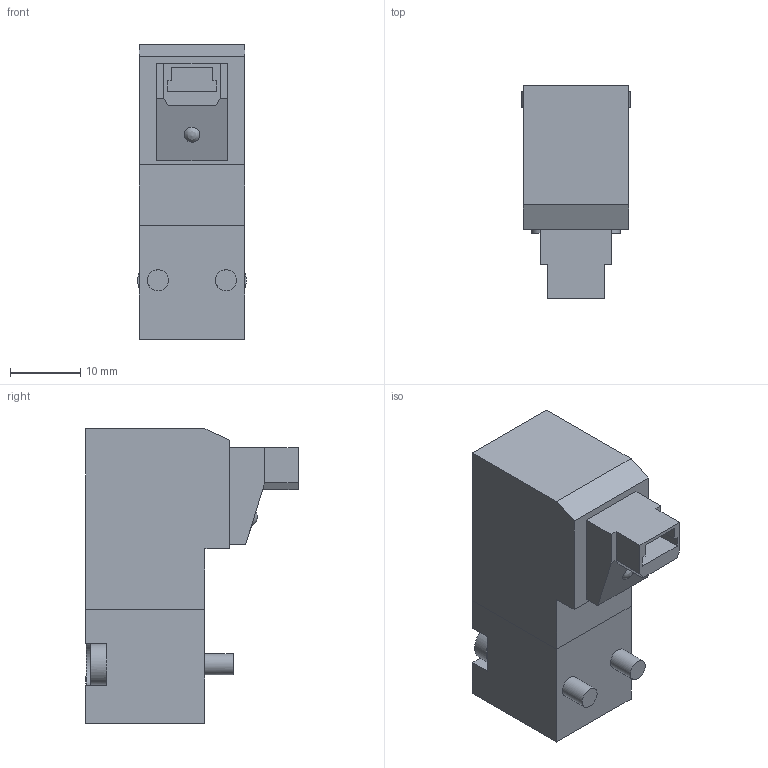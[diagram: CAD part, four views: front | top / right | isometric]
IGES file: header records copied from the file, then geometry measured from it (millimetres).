
Global section: file name: N3##_R6L#-8; native system: Autodesk Inventor 2014; preprocessor: unknown; author: A. Manieri; organization: Pneumax S.p.A.; date: 20160913.134729; units: millimetre
Bounding box: 15.5 x 30.3 x 42 mm (x, y, z)
Volume: 12224.5 mm3; surface area: 4088.5 mm2
Topology: 1 solids, 1 shells, 95 faces, 243 edges, 159 vertices
Faces by surface type: bspline 95
